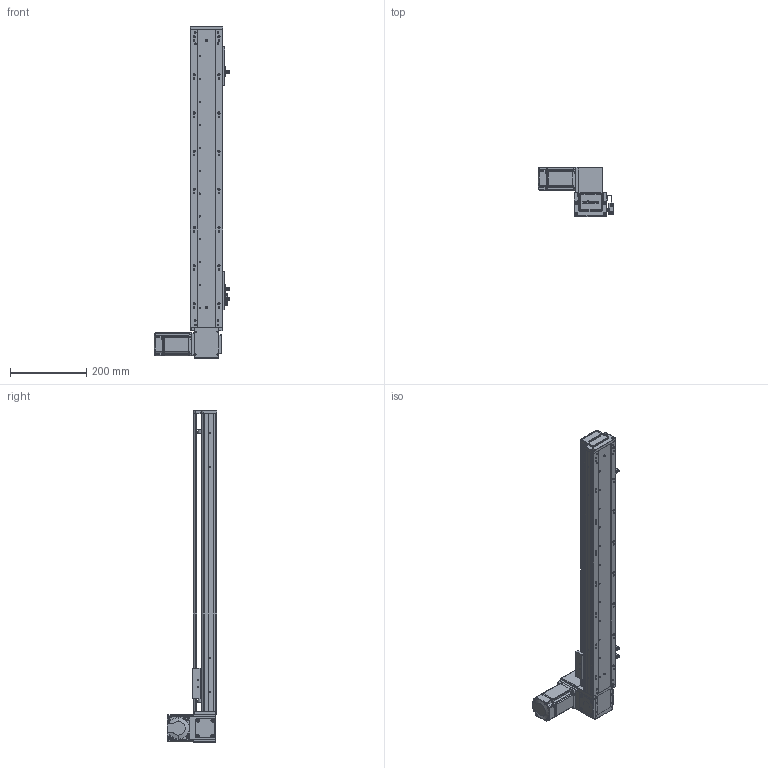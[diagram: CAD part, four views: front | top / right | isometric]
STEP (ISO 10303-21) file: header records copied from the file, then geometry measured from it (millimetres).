
FILE_DESCRIPTION (( 'STEP AP203' ), '1' );
FILE_NAME ('RY80-T-300-UL.SLDASM_600.step', '2021-03-01T02:16:37', ( '盈信电脑' ), ( '东莞市道滘镇水果街19号' ), 'SwSTEP 2.0', 'SolidWorks 2012', '' );
FILE_SCHEMA (( 'CONFIG_CONTROL_DESIGN' ));
Length unit declared in the file: millimetre
Products named in the file (19): RY80-T-M4蹟翐2; RY80-T-上下折同步轮盖板; RY80-T-300-UL.SLDASM_600; 滅袉蝶18-10; 1; RY80-T肮祭謫奻殏俋欶; RY80-T翋肮祭謫裔啣; RY80-T粣創揤踡輸; RY80-T肮祭湍揤輸1; RY80-T肮祭湍揤輸2; RY80-T萇儂假蚾啣; 覜茼ん672; RY80俋离覜茼え; RY80-T-翋肮祭謫釱; RY80-T-300-UL倰第奻裔啣_600; RY80-T綴裔啣; 672嫖萇羲壽假蚾釱; RY80-T肮祭謫臏賑輸; RY80-T-300-UL倰第菁釱_600
Assembly tree (24 placements, depth 2):
  RY80-T-300-UL.SLDASM_600
    RY80-T-300-UL倰第菁釱_600
    RY80-T肮祭謫臏賑輸
    RY80-T-300-UL倰第奻裔啣_600
    RY80-T綴裔啣
    672嫖萇羲壽假蚾釱  x2
    覜茼ん672  x3
    RY80俋离覜茼え
    RY80-T-翋肮祭謫釱
    RY80-T肮祭湍揤輸1
    RY80-T肮祭湍揤輸2
    RY80-T萇儂假蚾啣
    RY80-T粣創揤踡輸  x2
    滅袉蝶18-10  x2
    RY80-T翋肮祭謫裔啣
    1
    RY80-T肮祭謫奻殏俋欶
    RY80-T-M4蹟翐2  x2
    RY80-T-上下折同步轮盖板
Bounding box: 198.7 x 130.5 x 870 mm (x, y, z)
Volume: 1672861.7 mm3; surface area: 685539.8 mm2
Topology: 24 solids, 24 shells, 2534 faces, 6977 edges, 4531 vertices
Faces by surface type: plane 1356, cylinder 973, cone 149, bspline 56
Entity records: 79383 total; most frequent: CARTESIAN_POINT 19432, ORIENTED_EDGE 12338, DIRECTION 11552, EDGE_CURVE 6169, VERTEX_POINT 4052, AXIS2_PLACEMENT_3D 3884, VECTOR 3784, LINE 3784
